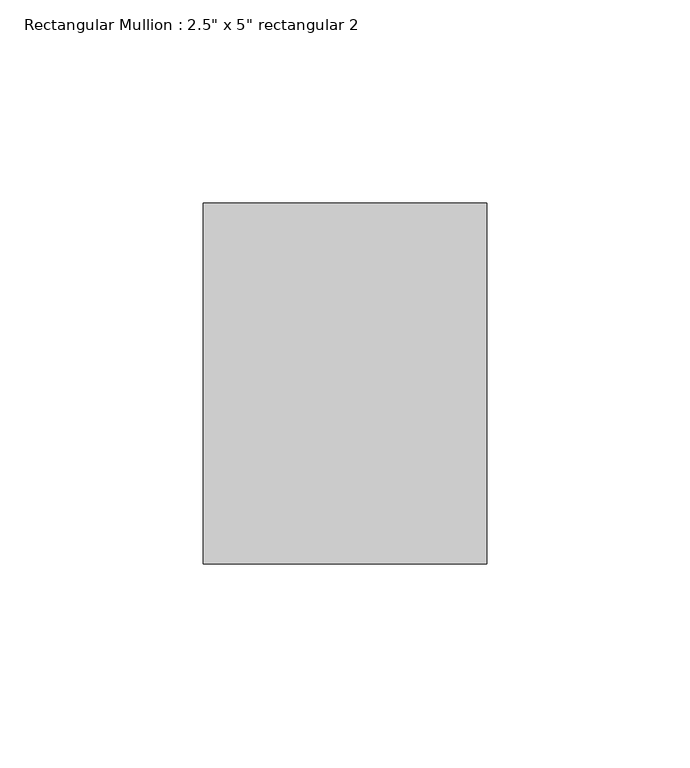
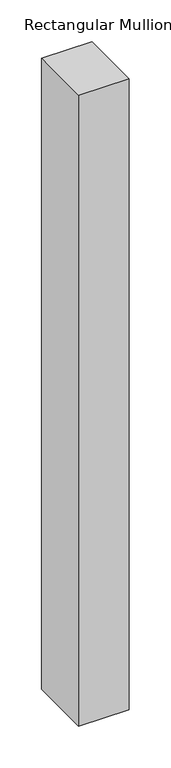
"""IFC4 building model written with IfcOpenShell, lengths in millimetres: member geometry."""

import ifcopenshell
import ifcopenshell.guid

model = None  # the IFC model being written
_history = None  # IfcOwnerHistory: only IFC2X3 demands one
_inside = {}  # id of a spatial element -> (the spatial element, [elements in it])
_under = {}  # id of a project, library or spatial element -> (it, [spatial elements below it])
_declared = {}  # id of a project -> (the project, [libraries it declares])
_typed = {}  # id of a type object -> (the type object, [elements of that type])
_made_of = {}  # id of a material, layer set ... -> (it, [elements and type objects made of it])


def new_model(schema):
    """Start an empty IFC model of exactly this schema.

    Asked for "IFC4X3", IfcOpenShell would pick the latest addendum, in which some entities
    have other attributes; the version numbers below select the first issue.
    IFC2X3 requires an IfcOwnerHistory on every rooted entity: one is made here for all.
    """
    global model, _history
    if schema == "IFC4X3":
        model = ifcopenshell.file(schema_version=(4, 3, 0, 0))
    else:
        model = ifcopenshell.file(schema=schema)
    _inside.clear()
    _under.clear()
    _declared.clear()
    _typed.clear()
    _made_of.clear()
    _history = None
    if model.schema == "IFC2X3":
        org = make("IfcOrganization", Name="unknown")
        user = make(
            "IfcPersonAndOrganization",
            ThePerson=make("IfcPerson", FamilyName="unknown"),
            TheOrganization=org,
        )
        app = make(
            "IfcApplication",
            ApplicationDeveloper=org,
            Version="unknown",
            ApplicationFullName="unknown",
            ApplicationIdentifier="unknown",
        )
        _history = make(
            "IfcOwnerHistory",
            OwningUser=user,
            OwningApplication=app,
            ChangeAction="ADDED",
            CreationDate=0,
        )
    return model


def make(cls, **values):
    """One entity of the class cls with the attributes given. An attribute that is None is left unset."""
    return model.create_entity(
        cls, **{name: value for name, value in values.items() if value is not None}
    )


def rooted(cls, **values):
    """An entity with a GlobalId (a new one), such as an element, a storey or a relation."""
    return make(cls, GlobalId=ifcopenshell.guid.new(), OwnerHistory=_history, **values)


def si_unit(unit_type, name, prefix=None):
    """IfcSIUnit, for example si_unit("LENGTHUNIT", "METRE", prefix="MILLI")."""
    return make("IfcSIUnit", UnitType=unit_type, Prefix=prefix, Name=name)


def assignment(units):
    """IfcUnitAssignment: the units of a project."""
    return None if units is None else make("IfcUnitAssignment", Units=units)


def point(xyz):
    """IfcCartesianPoint."""
    return None if xyz is None else make("IfcCartesianPoint", Coordinates=xyz)


def direction(xyz):
    """IfcDirection."""
    return None if xyz is None else make("IfcDirection", DirectionRatios=xyz)


def frame(location, z_axis=None, x_axis=None):
    """IfcAxis2Placement3D, a coordinate frame: its origin and axes. An axis left out is left unset."""
    return make(
        "IfcAxis2Placement3D",
        Location=point(location),
        Axis=direction(z_axis),
        RefDirection=direction(x_axis),
    )


def origin():
    """The frame at (0, 0, 0) with its axes left unset."""
    return frame((0.0, 0.0, 0.0))


def place(relative_to, where):
    """IfcLocalPlacement: puts the frame where relative to a parent placement (None: the world)."""
    return make(
        "IfcLocalPlacement", PlacementRelTo=relative_to, RelativePlacement=where
    )


def context(
    kind, dimensions, precision=None, world=None, true_north=None, identifier=None
):
    """IfcGeometricRepresentationContext, for example the 3D "Model" context."""
    return make(
        "IfcGeometricRepresentationContext",
        ContextIdentifier=identifier,
        ContextType=kind,
        CoordinateSpaceDimension=dimensions,
        Precision=precision,
        WorldCoordinateSystem=world,
        TrueNorth=true_north,
    )


def project(units=None, contexts=None):
    """IfcProject with its units and contexts."""
    return rooted(
        "IfcProject",
        Name="project",
        RepresentationContexts=contexts,
        UnitsInContext=assignment(units),
    )


def spatial(cls, under=None, at=None, **own):
    """A site, building, storey or space (cls), placed at a placement, below another one or the project."""
    s = rooted(cls, ObjectPlacement=at, **own)
    if under is not None:
        _under.setdefault(under.id(), (under, []))[1].append(s)
    return s


def polyline(points):
    """IfcPolyline through the points."""
    return make("IfcPolyline", Points=[point(p) for p in points])


def outline(outer, holes=None, kind="AREA"):
    """IfcArbitraryClosedProfileDef: a profile drawn as a closed curve; with holes, ...WithVoids."""
    if holes is None:
        return make("IfcArbitraryClosedProfileDef", ProfileType=kind, OuterCurve=outer)
    return make(
        "IfcArbitraryProfileDefWithVoids",
        ProfileType=kind,
        OuterCurve=outer,
        InnerCurves=holes,
    )


def extrude(swept, where, along, depth):
    """IfcExtrudedAreaSolid: the profile swept, set in the frame where, extruded along a direction by depth."""
    return make(
        "IfcExtrudedAreaSolid",
        SweptArea=swept,
        Position=where,
        ExtrudedDirection=direction(along),
        Depth=depth,
    )


def shape(context_of_items, identifier, shape_type, items):
    """IfcShapeRepresentation: the items that make up one representation, for example the "Body"."""
    return make(
        "IfcShapeRepresentation",
        ContextOfItems=context_of_items,
        RepresentationIdentifier=identifier,
        RepresentationType=shape_type,
        Items=items,
    )


def source(mapping_origin, context_of_items, identifier, shape_type, items):
    """IfcRepresentationMap: a shape defined once, which mapped items show again and again."""
    return make(
        "IfcRepresentationMap",
        MappingOrigin=mapping_origin,
        MappedRepresentation=shape(context_of_items, identifier, shape_type, items),
    )


def transform(
    local_origin,
    x_axis=None,
    y_axis=None,
    z_axis=None,
    scale=None,
    scale2=None,
    scale3=None,
    uniform=True,
):
    """IfcCartesianTransformationOperator3D, or its non-uniform kind. x_axis, y_axis, z_axis: its Axis1, 2, 3."""
    if uniform:
        return make(
            "IfcCartesianTransformationOperator3D",
            Axis1=direction(x_axis),
            Axis2=direction(y_axis),
            LocalOrigin=point(local_origin),
            Scale=scale,
            Axis3=direction(z_axis),
        )
    return make(
        "IfcCartesianTransformationOperator3DnonUniform",
        Axis1=direction(x_axis),
        Axis2=direction(y_axis),
        LocalOrigin=point(local_origin),
        Scale=scale,
        Axis3=direction(z_axis),
        Scale2=scale2,
        Scale3=scale3,
    )


def mapped(mapping_source, mapping_target):
    """IfcMappedItem: shows the shape of a source again, moved by a transform."""
    return make(
        "IfcMappedItem", MappingSource=mapping_source, MappingTarget=mapping_target
    )


def made_of(thing, what):
    """Note that an element or type object is made of a material, layer set ...; save() writes the relation."""
    if what is not None:
        _made_of.setdefault(what.id(), (what, []))[1].append(thing)
    return thing


def element(
    cls,
    number,
    at=None,
    inside=None,
    cuts=None,
    type_object=None,
    material=None,
    context=None,
    identifier="Body",
    shape_type=None,
    held_by="IfcProductDefinitionShape",
    body=None,
    shapes=None,
    **own,
):
    """One element of the class cls, such as IfcWall. Its Tag is "e" and its number.

    at: its placement. inside: the storey or other place that contains it. cuts: it is an
    opening in that element (IfcRelVoidsElement). A single representation is given by context,
    identifier, shape_type and body (its items); several are given by shapes. held_by: the class
    of the entity that holds the representations. save() writes the other relations.
    """
    e = rooted(cls, Tag="e%d" % number, ObjectPlacement=at, **own)
    if body is not None:
        shapes = [shape(context, identifier, shape_type, body)]
    if shapes is not None:
        e.Representation = make(held_by, Representations=shapes)
    if inside is not None:
        _inside.setdefault(inside.id(), (inside, []))[1].append(e)
    if cuts is not None:
        rooted(
            "IfcRelVoidsElement", RelatingBuildingElement=cuts, RelatedOpeningElement=e
        )
    if type_object is not None:
        _typed.setdefault(type_object.id(), (type_object, []))[1].append(e)
    return made_of(e, material)


def aggregate(whole, parts):
    """IfcRelAggregates: a whole, such as a stair, and the parts it consists of."""
    return rooted("IfcRelAggregates", RelatingObject=whole, RelatedObjects=parts)


def save(model, path):
    """Write the relations noted so far, then the file.

    IfcRelAggregates (storeys below a building ...), IfcRelContainedInSpatialStructure (elements
    in a storey), IfcRelDefinesByType, IfcRelAssociatesMaterial and IfcRelDeclares: one each for
    every whole, place, type object, material and project.
    """
    for whole, parts in _under.values():
        aggregate(whole, parts)
    for where, things in _inside.values():
        rooted(
            "IfcRelContainedInSpatialStructure",
            RelatedElements=things,
            RelatingStructure=where,
        )
    for kind, things in _typed.values():
        rooted("IfcRelDefinesByType", RelatedObjects=things, RelatingType=kind)
    for what, things in _made_of.values():
        rooted("IfcRelAssociatesMaterial", RelatedObjects=things, RelatingMaterial=what)
    for by, libraries in _declared.values():
        rooted("IfcRelDeclares", RelatingContext=by, RelatedDefinitions=libraries)
    model.write(path)


def member_4e125583(model_context):
    return source(origin(), model_context, "Body", "SweptSolid", [
        extrude(outline(polyline([(0.0, 44.45), (0.0, -44.45), (-69.85, -44.45), (-69.85, 44.45), (0.0, 44.45)])), frame((0.0, 0.0, -922.8666667), z_axis=(0.0, 0.0, 1.0), x_axis=(1.0, 0.0, 0.0)), (0.0, 0.0, 1.0), 922.8666667),
    ])


if __name__ == "__main__":
    model = new_model("IFC4")
    model_context = context("Model", 3, world=origin())
    ifc_project = project(units=[si_unit("LENGTHUNIT", "METRE", prefix="MILLI")], contexts=[model_context])
    site = spatial("IfcSite", under=ifc_project)
    building = spatial("IfcBuilding", under=site)
    placement = place(None, origin())
    member_shape = member_4e125583(model_context)
    element("IfcMember", 1, ObjectType="Rectangular Mullion : 2.5\" x 5\" rectangular 2", at=placement, inside=building, context=model_context, shape_type="MappedRepresentation", body=[
        mapped(member_shape, transform((0.0, 0.0, 0.0), x_axis=(1.0, 0.0, 0.0), y_axis=(0.0, 1.0, 0.0), z_axis=(0.0, 0.0, 1.0))),
    ])
    save(model, "model.ifc")
